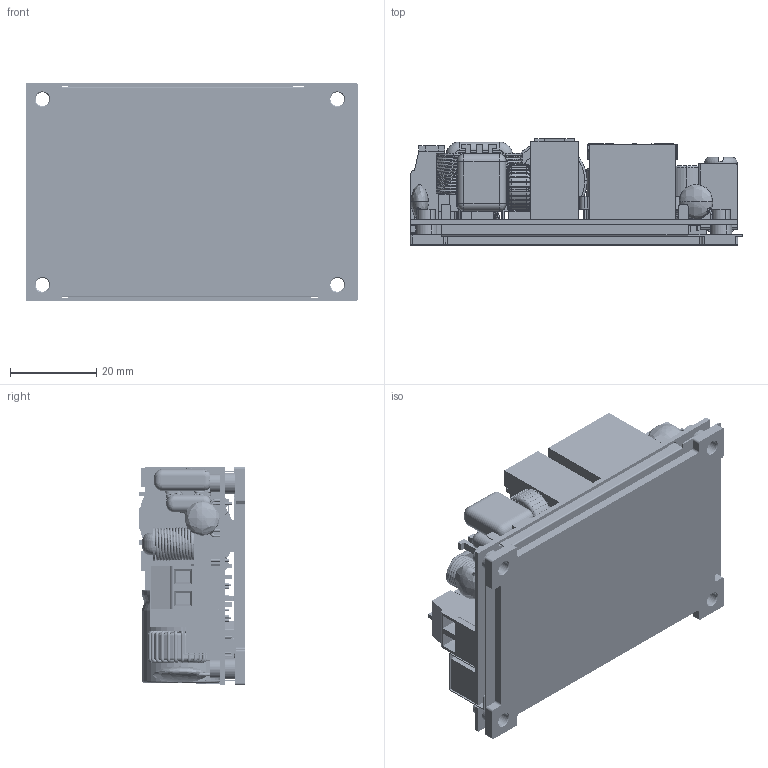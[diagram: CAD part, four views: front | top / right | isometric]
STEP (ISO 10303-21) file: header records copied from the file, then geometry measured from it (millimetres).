
FILE_DESCRIPTION (( 'STEP AP214' ), '1' );
FILE_NAME ('LFM200S(M)XXXB.STEP', '2025-04-10T00:54:28', ( 'cincon' ), ( '' ), 'SwSTEP 2.0', 'SolidWorks 2020', '' );
FILE_SCHEMA (( 'AUTOMOTIVE_DESIGN' ));
Length unit declared in the file: millimetre
Products named in the file (1): LFM200S(M)XXXB
Bounding box: 77.2 x 24.6 x 50.8 mm (x, y, z)
Surface area: 47904.9 mm2 (no closed solid volume)
Topology: 0 solids, 37 shells, 3262 faces, 9327 edges, 6013 vertices
Faces by surface type: cylinder 1221, plane 1175, torus 646, bspline 136, cone 43, sphere 41
Entity records: 160641 total; most frequent: CARTESIAN_POINT 38182, DIRECTION 18627, ORIENTED_EDGE 18598, EDGE_CURVE 9303, AXIS2_PLACEMENT_3D 7345, VERTEX_POINT 6013, CIRCLE 4218, LINE 3937
